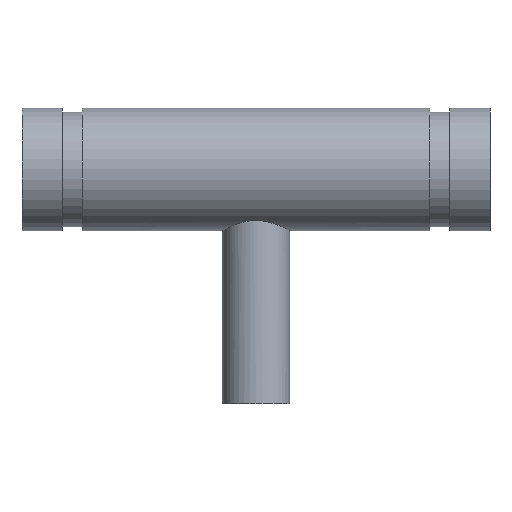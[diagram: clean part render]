
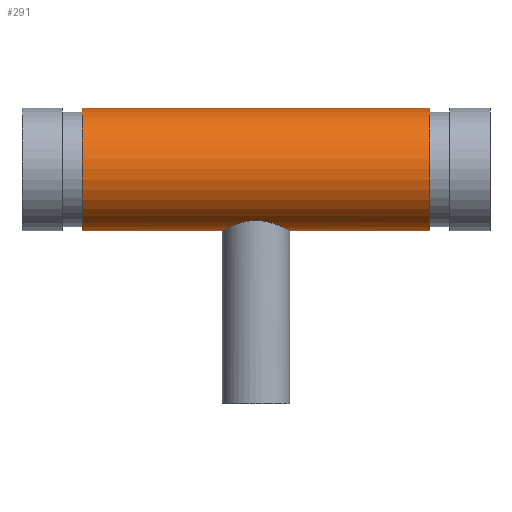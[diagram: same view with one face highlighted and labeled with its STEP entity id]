
A CAD part, top view. The second image highlights one B-rep face of the part: STEP entity #291.
In plain terms, the highlighted cylindrical face has radius 24.13 mm (diameter 48.26 mm), a full revolution.
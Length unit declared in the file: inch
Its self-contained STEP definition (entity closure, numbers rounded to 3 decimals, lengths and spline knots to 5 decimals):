
#45=B_SPLINE_CURVE_WITH_KNOTS('',3,(#511,#512,#513,#514,#515,#516,#517,
#518,#519,#520,#521,#522,#523,#524,#525,#526,#527,#528,#529,#530,#531,#532,
#533,#534,#535,#536,#537,#538,#539,#540,#541,#542,#543,#544,#545,#546,#547,
#548),.UNSPECIFIED.,.F.,.F.,(4,2,2,2,2,2,2,2,2,2,2,2,2,2,2,2,2,2,4),(0.,
0.25822,0.51643,1.03286,1.54705,1.80414,
2.06124,2.31833,2.57543,3.08961,3.60604,
3.86426,4.12247,4.38069,4.63891,5.15534,
5.66952,5.92662,6.18371),.UNSPECIFIED.);
#46=B_SPLINE_CURVE_WITH_KNOTS('',3,(#549,#550,#551,#552,#553,#554,#555,
#556,#557,#558,#559,#560,#561,#562),.UNSPECIFIED.,.F.,.F.,(4,2,2,2,2,2,
4),(6.18371,6.44081,6.6979,7.21209,
7.72852,7.98673,8.24495),.UNSPECIFIED.);
#51=LINE('',#508,#59);
#59=VECTOR('',#410,0.95);
#67=CYLINDRICAL_SURFACE('',#338,0.95);
#77=FACE_BOUND('',#108,.T.);
#88=FACE_OUTER_BOUND('',#107,.T.);
#107=EDGE_LOOP('',(#221,#222,#223,#224));
#108=EDGE_LOOP('',(#225,#226));
#121=CIRCLE('',#321,0.95);
#132=CIRCLE('',#337,0.95);
#141=VERTEX_POINT('',#476);
#152=VERTEX_POINT('',#505);
#153=VERTEX_POINT('',#509);
#154=VERTEX_POINT('',#510);
#165=EDGE_CURVE('',#141,#141,#121,.T.);
#178=EDGE_CURVE('',#152,#152,#132,.T.);
#179=EDGE_CURVE('',#152,#141,#51,.T.);
#180=EDGE_CURVE('',#153,#154,#45,.T.);
#181=EDGE_CURVE('',#154,#153,#46,.T.);
#221=ORIENTED_EDGE('',*,*,#178,.T.);
#222=ORIENTED_EDGE('',*,*,#179,.T.);
#223=ORIENTED_EDGE('',*,*,#165,.T.);
#224=ORIENTED_EDGE('',*,*,#179,.F.);
#225=ORIENTED_EDGE('',*,*,#180,.F.);
#226=ORIENTED_EDGE('',*,*,#181,.F.);
#291=ADVANCED_FACE('',(#88,#77),#67,.T.);
#321=AXIS2_PLACEMENT_3D('',#477,#372,#373);
#337=AXIS2_PLACEMENT_3D('',#506,#406,#407);
#338=AXIS2_PLACEMENT_3D('',#507,#408,#409);
#372=DIRECTION('center_axis',(-1.,0.,0.));
#373=DIRECTION('ref_axis',(0.,-1.,0.));
#406=DIRECTION('center_axis',(1.,0.,0.));
#407=DIRECTION('ref_axis',(0.,-1.,0.));
#408=DIRECTION('center_axis',(-1.,0.,0.));
#409=DIRECTION('ref_axis',(0.,-1.,0.));
#410=DIRECTION('',(1.,0.,0.));
#476=CARTESIAN_POINT('',(2.692,0.95,0.));
#477=CARTESIAN_POINT('Origin',(2.692,0.,0.));
#505=CARTESIAN_POINT('',(-2.692,0.95,0.));
#506=CARTESIAN_POINT('Origin',(-2.692,0.,0.));
#507=CARTESIAN_POINT('Origin',(3.63,0.,0.));
#508=CARTESIAN_POINT('',(3.63,0.95,0.));
#509=CARTESIAN_POINT('',(0.,-0.79175,-0.525));
#510=CARTESIAN_POINT('',(-0.525,-0.95,0.));
#511=CARTESIAN_POINT('Ctrl Pts',(0.,-0.79175,-0.525));
#512=CARTESIAN_POINT('Ctrl Pts',(0.03389,-0.79175,
-0.525));
#513=CARTESIAN_POINT('Ctrl Pts',(0.06859,-0.79399,-0.52167));
#514=CARTESIAN_POINT('Ctrl Pts',(0.13706,-0.80281,-0.508));
#515=CARTESIAN_POINT('Ctrl Pts',(0.17081,-0.80937,-0.49766));
#516=CARTESIAN_POINT('Ctrl Pts',(0.26733,-0.83334,-0.4572));
#517=CARTESIAN_POINT('Ctrl Pts',(0.32533,-0.85498,-0.41713));
#518=CARTESIAN_POINT('Ctrl Pts',(0.41693,-0.89386,-0.32553));
#519=CARTESIAN_POINT('Ctrl Pts',(0.45714,-0.91396,-0.26747));
#520=CARTESIAN_POINT('Ctrl Pts',(0.49769,-0.93512,-0.17073));
#521=CARTESIAN_POINT('Ctrl Pts',(0.50804,-0.94072,-0.1369));
#522=CARTESIAN_POINT('Ctrl Pts',(0.52169,-0.94816,-0.0684));
#523=CARTESIAN_POINT('Ctrl Pts',(0.525,-0.95,-0.03374));
#524=CARTESIAN_POINT('Ctrl Pts',(0.525,-0.95,0.03374));
#525=CARTESIAN_POINT('Ctrl Pts',(0.52169,-0.94816,0.0684));
#526=CARTESIAN_POINT('Ctrl Pts',(0.50804,-0.94072,0.1369));
#527=CARTESIAN_POINT('Ctrl Pts',(0.49769,-0.93512,0.17073));
#528=CARTESIAN_POINT('Ctrl Pts',(0.45714,-0.91396,0.26747));
#529=CARTESIAN_POINT('Ctrl Pts',(0.41693,-0.89386,0.32553));
#530=CARTESIAN_POINT('Ctrl Pts',(0.32533,-0.85498,0.41713));
#531=CARTESIAN_POINT('Ctrl Pts',(0.26733,-0.83334,0.4572));
#532=CARTESIAN_POINT('Ctrl Pts',(0.17081,-0.80937,0.49766));
#533=CARTESIAN_POINT('Ctrl Pts',(0.13706,-0.80281,0.508));
#534=CARTESIAN_POINT('Ctrl Pts',(0.06859,-0.79399,0.52167));
#535=CARTESIAN_POINT('Ctrl Pts',(0.03389,-0.79175,
0.525));
#536=CARTESIAN_POINT('Ctrl Pts',(-0.03389,-0.79175,
0.525));
#537=CARTESIAN_POINT('Ctrl Pts',(-0.06859,-0.79399,
0.52167));
#538=CARTESIAN_POINT('Ctrl Pts',(-0.13706,-0.80281,
0.508));
#539=CARTESIAN_POINT('Ctrl Pts',(-0.17081,-0.80937,
0.49766));
#540=CARTESIAN_POINT('Ctrl Pts',(-0.26733,-0.83334,
0.4572));
#541=CARTESIAN_POINT('Ctrl Pts',(-0.32533,-0.85498,
0.41713));
#542=CARTESIAN_POINT('Ctrl Pts',(-0.41693,-0.89386,
0.32553));
#543=CARTESIAN_POINT('Ctrl Pts',(-0.45714,-0.91396,
0.26747));
#544=CARTESIAN_POINT('Ctrl Pts',(-0.49769,-0.93512,0.17073));
#545=CARTESIAN_POINT('Ctrl Pts',(-0.50804,-0.94072,
0.1369));
#546=CARTESIAN_POINT('Ctrl Pts',(-0.52169,-0.94816,
0.0684));
#547=CARTESIAN_POINT('Ctrl Pts',(-0.525,-0.95,0.03374));
#548=CARTESIAN_POINT('Ctrl Pts',(-0.525,-0.95,0.));
#549=CARTESIAN_POINT('Ctrl Pts',(-0.525,-0.95,0.));
#550=CARTESIAN_POINT('Ctrl Pts',(-0.525,-0.95,-0.03374));
#551=CARTESIAN_POINT('Ctrl Pts',(-0.52169,-0.94816,
-0.0684));
#552=CARTESIAN_POINT('Ctrl Pts',(-0.50804,-0.94072,
-0.1369));
#553=CARTESIAN_POINT('Ctrl Pts',(-0.49769,-0.93512,-0.17073));
#554=CARTESIAN_POINT('Ctrl Pts',(-0.45714,-0.91396,
-0.26747));
#555=CARTESIAN_POINT('Ctrl Pts',(-0.41693,-0.89386,
-0.32553));
#556=CARTESIAN_POINT('Ctrl Pts',(-0.32533,-0.85498,
-0.41713));
#557=CARTESIAN_POINT('Ctrl Pts',(-0.26733,-0.83334,
-0.4572));
#558=CARTESIAN_POINT('Ctrl Pts',(-0.17081,-0.80937,
-0.49766));
#559=CARTESIAN_POINT('Ctrl Pts',(-0.13706,-0.80281,
-0.508));
#560=CARTESIAN_POINT('Ctrl Pts',(-0.06859,-0.79399,
-0.52167));
#561=CARTESIAN_POINT('Ctrl Pts',(-0.03389,-0.79175,
-0.525));
#562=CARTESIAN_POINT('Ctrl Pts',(0.,-0.79175,
-0.525));
